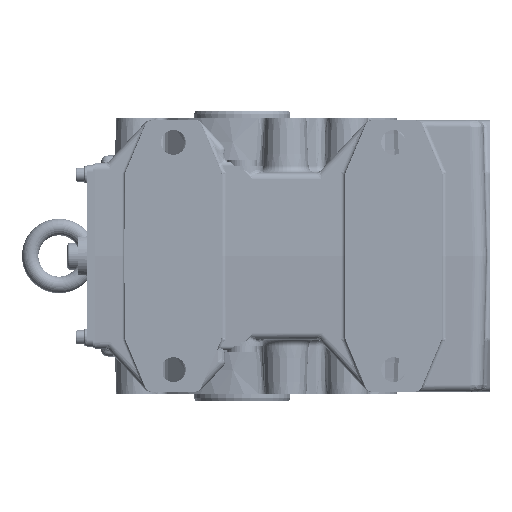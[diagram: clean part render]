
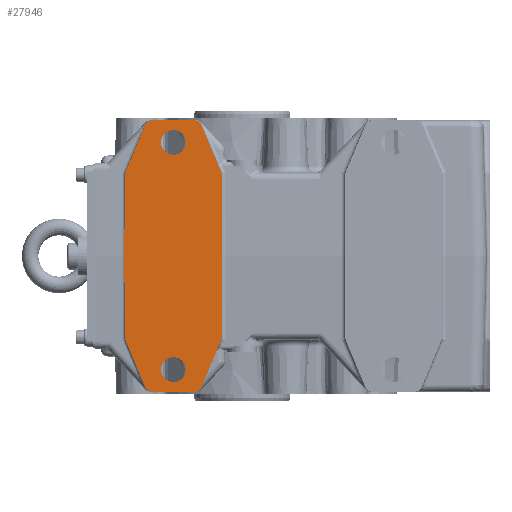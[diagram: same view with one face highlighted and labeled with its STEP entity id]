
A CAD part, left-side view. The second image highlights one B-rep face of the part: STEP entity #27946.
In plain terms, the highlighted planar face has unit normal (-1, 0, 0).
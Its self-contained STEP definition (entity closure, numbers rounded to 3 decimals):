
#27695=CARTESIAN_POINT('',(-112.,50.0,-73.5));
#27696=VERTEX_POINT('',#27695);
#27697=CARTESIAN_POINT('',(-112.,50.0,-82.5));
#27698=DIRECTION('',(1.0,0.0,0.0));
#27699=DIRECTION('',(0.0,0.0,1.0));
#27700=AXIS2_PLACEMENT_3D('',#27697,#27698,#27699);
#27701=CIRCLE('',#27700,9.0);
#27702=EDGE_CURVE('',#27696,#27696,#27701,.T.);
#27723=CARTESIAN_POINT('',(-112.,50.,91.5));
#27724=VERTEX_POINT('',#27723);
#27725=CARTESIAN_POINT('',(-112.,50.,82.5));
#27726=DIRECTION('',(1.0,0.0,0.0));
#27727=DIRECTION('',(0.0,0.0,1.0));
#27728=AXIS2_PLACEMENT_3D('',#27725,#27726,#27727);
#27729=CIRCLE('',#27728,9.0);
#27730=EDGE_CURVE('',#27724,#27724,#27729,.T.);
#27763=CARTESIAN_POINT('',(-112.,-29.479,11.268));
#27764=DIRECTION('',(1.0,0.0,0.0));
#27765=DIRECTION('',(0.0,0.0,-1.0));
#27766=AXIS2_PLACEMENT_3D('',#27763,#27764,#27765);
#27767=PLANE('',#27766);
#27768=CARTESIAN_POINT('',(-112.,85.011,-59.485));
#27769=VERTEX_POINT('',#27768);
#27770=CARTESIAN_POINT('',(-112.,86.064,0.));
#27771=VERTEX_POINT('',#27770);
#27772=CARTESIAN_POINT('',(-112.,87.0,-67.526));
#27773=DIRECTION('',(-1.0,0.0,0.0));
#27774=DIRECTION('',(0.0,0.0,1.0));
#27775=AXIS2_PLACEMENT_3D('',#27772,#27773,#27774);
#27776=ELLIPSE('',#27775,76.403,2.0);
#27777=EDGE_CURVE('',#27769,#27771,#27776,.T.);
#27778=ORIENTED_EDGE('',*,*,#27777,.F.);
#27779=CARTESIAN_POINT('',(-112.,84.614,-61.429));
#27780=VERTEX_POINT('',#27779);
#27781=CARTESIAN_POINT('',(-112.,84.614,-61.429));
#27782=CARTESIAN_POINT('',(-112.,84.744,-61.122));
#27783=CARTESIAN_POINT('',(-112.,84.843,-60.803));
#27784=CARTESIAN_POINT('',(-112.,84.909,-60.477));
#27785=CARTESIAN_POINT('',(-112.,84.976,-60.15));
#27786=CARTESIAN_POINT('',(-112.,85.01,-59.818));
#27787=CARTESIAN_POINT('',(-112.,85.011,-59.485));
#27788=B_SPLINE_CURVE_WITH_KNOTS('',3,(#27781,#27782,#27783,#27784,#27785,#27786,#27787),.UNSPECIFIED.,.F.,.U.,(4,3,4),(-0.2,-0.1,0.0),.UNSPECIFIED.);
#27789=EDGE_CURVE('',#27780,#27769,#27788,.T.);
#27790=ORIENTED_EDGE('',*,*,#27789,.F.);
#27791=CARTESIAN_POINT('',(-112.,82.368,-66.75));
#27792=VERTEX_POINT('',#27791);
#27793=CARTESIAN_POINT('',(-112.,84.212,-67.526));
#27794=DIRECTION('',(-1.0,0.0,0.0));
#27795=DIRECTION('',(0.0,0.388,0.922));
#27796=AXIS2_PLACEMENT_3D('',#27793,#27794,#27795);
#27797=ELLIPSE('',#27796,82.895,2.0);
#27798=EDGE_CURVE('',#27792,#27780,#27797,.T.);
#27799=ORIENTED_EDGE('',*,*,#27798,.F.);
#27800=CARTESIAN_POINT('',(-112.,70.288,-95.44));
#27801=VERTEX_POINT('',#27800);
#27802=CARTESIAN_POINT('',(-112.0,70.288,-95.44));
#27803=DIRECTION('',(0.0,0.388,0.922));
#27804=VECTOR('',#27803,31.13);
#27805=LINE('',#27802,#27804);
#27806=EDGE_CURVE('',#27801,#27792,#27805,.T.);
#27807=ORIENTED_EDGE('',*,*,#27806,.F.);
#27808=CARTESIAN_POINT('',(-112.,65.68,-98.5));
#27809=VERTEX_POINT('',#27808);
#27810=CARTESIAN_POINT('',(-112.,65.68,-93.5));
#27811=DIRECTION('',(1.0,0.0,0.0));
#27812=DIRECTION('',(0.0,0.0,-1.0));
#27813=AXIS2_PLACEMENT_3D('',#27810,#27811,#27812);
#27814=CIRCLE('',#27813,5.0);
#27815=EDGE_CURVE('',#27809,#27801,#27814,.T.);
#27816=ORIENTED_EDGE('',*,*,#27815,.F.);
#27817=CARTESIAN_POINT('',(-112.,34.32,-98.5));
#27818=VERTEX_POINT('',#27817);
#27819=CARTESIAN_POINT('',(-112.,34.32,-98.5));
#27820=DIRECTION('',(0.0,1.0,0.0));
#27821=VECTOR('',#27820,31.36);
#27822=LINE('',#27819,#27821);
#27823=EDGE_CURVE('',#27818,#27809,#27822,.T.);
#27824=ORIENTED_EDGE('',*,*,#27823,.F.);
#27825=CARTESIAN_POINT('',(-112.,29.712,-95.44));
#27826=VERTEX_POINT('',#27825);
#27827=CARTESIAN_POINT('',(-112.,34.32,-93.5));
#27828=DIRECTION('',(1.0,0.0,0.0));
#27829=DIRECTION('',(0.0,0.0,-1.0));
#27830=AXIS2_PLACEMENT_3D('',#27827,#27828,#27829);
#27831=CIRCLE('',#27830,5.0);
#27832=EDGE_CURVE('',#27826,#27818,#27831,.T.);
#27833=ORIENTED_EDGE('',*,*,#27832,.F.);
#27834=CARTESIAN_POINT('',(-112.,15.392,-61.431));
#27835=VERTEX_POINT('',#27834);
#27836=CARTESIAN_POINT('',(-112.,15.392,-61.431));
#27837=DIRECTION('',(0.0,0.388,-0.922));
#27838=VECTOR('',#27837,36.901);
#27839=LINE('',#27836,#27838);
#27840=EDGE_CURVE('',#27835,#27826,#27839,.T.);
#27841=ORIENTED_EDGE('',*,*,#27840,.F.);
#27842=CARTESIAN_POINT('',(-112.,15.0,-59.49));
#27843=VERTEX_POINT('',#27842);
#27844=CARTESIAN_POINT('',(-112.,20.0,-59.49));
#27845=DIRECTION('',(1.0,0.0,0.0));
#27846=DIRECTION('',(0.0,-0.98,-0.198));
#27847=AXIS2_PLACEMENT_3D('',#27844,#27845,#27846);
#27848=CIRCLE('',#27847,5.0);
#27849=EDGE_CURVE('',#27843,#27835,#27848,.T.);
#27850=ORIENTED_EDGE('',*,*,#27849,.F.);
#27851=CARTESIAN_POINT('',(-112.,15.0,59.49));
#27852=VERTEX_POINT('',#27851);
#27853=CARTESIAN_POINT('',(-112.,15.0,59.49));
#27854=DIRECTION('',(0.0,0.0,-1.0));
#27855=VECTOR('',#27854,118.981);
#27856=LINE('',#27853,#27855);
#27857=EDGE_CURVE('',#27852,#27843,#27856,.T.);
#27858=ORIENTED_EDGE('',*,*,#27857,.F.);
#27859=CARTESIAN_POINT('',(-112.,15.392,61.431));
#27860=VERTEX_POINT('',#27859);
#27861=CARTESIAN_POINT('',(-112.,20.0,59.49));
#27862=DIRECTION('',(1.0,0.0,0.0));
#27863=DIRECTION('',(0.0,-0.98,0.198));
#27864=AXIS2_PLACEMENT_3D('',#27861,#27862,#27863);
#27865=CIRCLE('',#27864,5.);
#27866=EDGE_CURVE('',#27860,#27852,#27865,.T.);
#27867=ORIENTED_EDGE('',*,*,#27866,.F.);
#27868=CARTESIAN_POINT('',(-112.,29.712,95.44));
#27869=VERTEX_POINT('',#27868);
#27870=CARTESIAN_POINT('',(-112.,29.712,95.44));
#27871=DIRECTION('',(0.0,-0.388,-0.922));
#27872=VECTOR('',#27871,36.901);
#27873=LINE('',#27870,#27872);
#27874=EDGE_CURVE('',#27869,#27860,#27873,.T.);
#27875=ORIENTED_EDGE('',*,*,#27874,.F.);
#27876=CARTESIAN_POINT('',(-112.,34.32,98.5));
#27877=VERTEX_POINT('',#27876);
#27878=CARTESIAN_POINT('',(-112.,34.32,93.5));
#27879=DIRECTION('',(1.0,0.0,0.0));
#27880=DIRECTION('',(0.0,0.0,1.0));
#27881=AXIS2_PLACEMENT_3D('',#27878,#27879,#27880);
#27882=CIRCLE('',#27881,5.0);
#27883=EDGE_CURVE('',#27877,#27869,#27882,.T.);
#27884=ORIENTED_EDGE('',*,*,#27883,.F.);
#27885=CARTESIAN_POINT('',(-112.,65.68,98.5));
#27886=VERTEX_POINT('',#27885);
#27887=CARTESIAN_POINT('',(-112.,65.68,98.5));
#27888=DIRECTION('',(0.0,-1.0,0.0));
#27889=VECTOR('',#27888,31.36);
#27890=LINE('',#27887,#27889);
#27891=EDGE_CURVE('',#27886,#27877,#27890,.T.);
#27892=ORIENTED_EDGE('',*,*,#27891,.F.);
#27893=CARTESIAN_POINT('',(-112.,70.288,95.44));
#27894=VERTEX_POINT('',#27893);
#27895=CARTESIAN_POINT('',(-112.,65.68,93.5));
#27896=DIRECTION('',(1.0,0.0,0.0));
#27897=DIRECTION('',(0.0,0.0,1.0));
#27898=AXIS2_PLACEMENT_3D('',#27895,#27896,#27897);
#27899=CIRCLE('',#27898,5.0);
#27900=EDGE_CURVE('',#27894,#27886,#27899,.T.);
#27901=ORIENTED_EDGE('',*,*,#27900,.F.);
#27902=CARTESIAN_POINT('',(-112.,82.368,66.75));
#27903=VERTEX_POINT('',#27902);
#27904=CARTESIAN_POINT('',(-112.0,82.368,66.75));
#27905=DIRECTION('',(0.0,-0.388,0.922));
#27906=VECTOR('',#27905,31.13);
#27907=LINE('',#27904,#27906);
#27908=EDGE_CURVE('',#27903,#27894,#27907,.T.);
#27909=ORIENTED_EDGE('',*,*,#27908,.F.);
#27910=CARTESIAN_POINT('',(-112.,84.614,61.429));
#27911=VERTEX_POINT('',#27910);
#27912=CARTESIAN_POINT('',(-112.,84.212,67.526));
#27913=DIRECTION('',(-1.0,0.0,0.0));
#27914=DIRECTION('',(0.0,0.388,-0.922));
#27915=AXIS2_PLACEMENT_3D('',#27912,#27913,#27914);
#27916=ELLIPSE('',#27915,82.895,2.0);
#27917=EDGE_CURVE('',#27911,#27903,#27916,.T.);
#27918=ORIENTED_EDGE('',*,*,#27917,.F.);
#27919=CARTESIAN_POINT('',(-112.,85.011,59.485));
#27920=VERTEX_POINT('',#27919);
#27921=CARTESIAN_POINT('',(-112.,85.011,59.485));
#27922=CARTESIAN_POINT('',(-112.,85.01,59.818));
#27923=CARTESIAN_POINT('',(-112.,84.976,60.151));
#27924=CARTESIAN_POINT('',(-112.,84.909,60.478));
#27925=CARTESIAN_POINT('',(-112.,84.842,60.804));
#27926=CARTESIAN_POINT('',(-112.,84.744,61.123));
#27927=CARTESIAN_POINT('',(-112.,84.614,61.429));
#27928=B_SPLINE_CURVE_WITH_KNOTS('',3,(#27921,#27922,#27923,#27924,#27925,#27926,#27927),.UNSPECIFIED.,.F.,.U.,(4,3,4),(-0.2,-0.1,0.0),.UNSPECIFIED.);
#27929=EDGE_CURVE('',#27920,#27911,#27928,.T.);
#27930=ORIENTED_EDGE('',*,*,#27929,.F.);
#27931=CARTESIAN_POINT('',(-112.,87.0,67.526));
#27932=DIRECTION('',(-1.0,0.0,0.0));
#27933=DIRECTION('',(0.0,0.0,-1.0));
#27934=AXIS2_PLACEMENT_3D('',#27931,#27932,#27933);
#27935=ELLIPSE('',#27934,76.403,2.0);
#27936=EDGE_CURVE('',#27771,#27920,#27935,.T.);
#27937=ORIENTED_EDGE('',*,*,#27936,.F.);
#27938=EDGE_LOOP('',(#27778,#27790,#27799,#27807,#27816,#27824,#27833,#27841,#27850,#27858,#27867,#27875,#27884,#27892,#27901,#27909,#27918,#27930,#27937));
#27939=FACE_OUTER_BOUND('',#27938,.T.);
#27940=ORIENTED_EDGE('',*,*,#27702,.T.);
#27941=EDGE_LOOP('',(#27940));
#27942=FACE_BOUND('',#27941,.T.);
#27943=ORIENTED_EDGE('',*,*,#27730,.T.);
#27944=EDGE_LOOP('',(#27943));
#27945=FACE_BOUND('',#27944,.T.);
#27946=ADVANCED_FACE('',(#27939,#27942,#27945),#27767,.F.);
